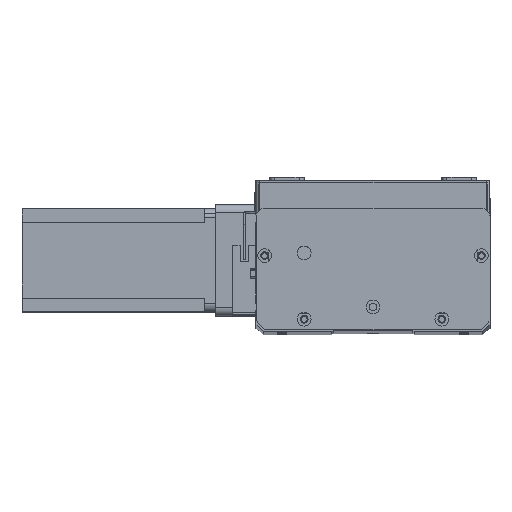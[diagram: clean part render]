
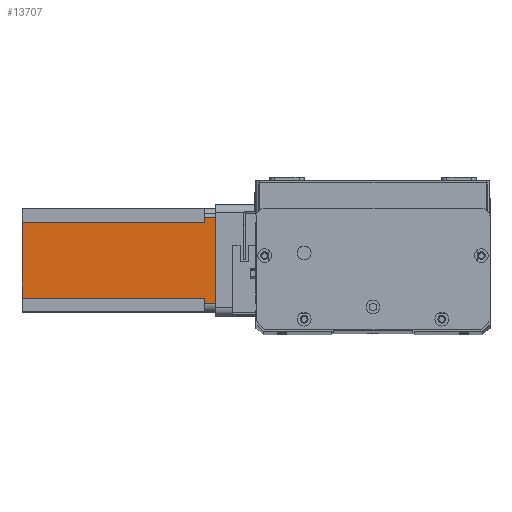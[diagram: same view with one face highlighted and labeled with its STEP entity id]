
A CAD part, top view. The second image highlights one B-rep face of the part: STEP entity #13707.
In plain terms, the highlighted planar face has unit normal (0, 0, 1) as drawn and (0, -1, 0) by its records, which use the part's own axes.
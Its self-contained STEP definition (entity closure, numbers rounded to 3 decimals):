
#125 = CARTESIAN_POINT ( 'NONE',  ( 0., 0., -112.5 ) ) ;
#185 = VECTOR ( 'NONE', #9398, 1000. ) ;
#202 = VECTOR ( 'NONE', #1739, 1000. ) ;
#456 = CARTESIAN_POINT ( 'NONE',  ( 8., 0., -6.5 ) ) ;
#1510 = DIRECTION ( 'NONE',  ( 1., 0., 0. ) ) ;
#1739 = DIRECTION ( 'NONE',  ( 0., 0., 1. ) ) ;
#1847 = EDGE_CURVE ( 'NONE', #11429, #1970, #19322, .T. ) ;
#1873 = VECTOR ( 'NONE', #6505, 1000. ) ;
#1970 = VERTEX_POINT ( 'NONE', #11541 ) ;
#2457 = LINE ( 'NONE', #456, #9061 ) ;
#3213 = ORIENTED_EDGE ( 'NONE', *, *, #16400, .T. ) ;
#3309 = VECTOR ( 'NONE', #11193, 1000. ) ;
#4149 = CARTESIAN_POINT ( 'NONE',  ( 52., 0., -112.5 ) ) ;
#5074 = VERTEX_POINT ( 'NONE', #10171 ) ;
#5399 = VERTEX_POINT ( 'NONE', #21449 ) ;
#5459 = AXIS2_PLACEMENT_3D ( 'NONE', #7580, #15218, #24091 ) ;
#6078 = ORIENTED_EDGE ( 'NONE', *, *, #11609, .F. ) ;
#6505 = DIRECTION ( 'NONE',  ( 0., 0., 1. ) ) ;
#6896 = ORIENTED_EDGE ( 'NONE', *, *, #1847, .T. ) ;
#7543 = ORIENTED_EDGE ( 'NONE', *, *, #10706, .T. ) ;
#7580 = CARTESIAN_POINT ( 'NONE',  ( 0., 0., -112.5 ) ) ;
#7745 = VECTOR ( 'NONE', #1510, 1000. ) ;
#8217 = EDGE_CURVE ( 'NONE', #11429, #5399, #22129, .T. ) ;
#8367 = EDGE_CURVE ( 'NONE', #5074, #1970, #18353, .T. ) ;
#8608 = CARTESIAN_POINT ( 'NONE',  ( 52., 0., -6.5 ) ) ;
#9061 = VECTOR ( 'NONE', #14469, 1000. ) ;
#9398 = DIRECTION ( 'NONE',  ( 0., 0., -1. ) ) ;
#9767 = ORIENTED_EDGE ( 'NONE', *, *, #12570, .F. ) ;
#9789 = CARTESIAN_POINT ( 'NONE',  ( 8., 0., -112.5 ) ) ;
#10111 = VECTOR ( 'NONE', #24607, 1000. ) ;
#10171 = CARTESIAN_POINT ( 'NONE',  ( 52., 0., -6.5 ) ) ;
#10189 = ORIENTED_EDGE ( 'NONE', *, *, #8217, .F. ) ;
#10325 = VERTEX_POINT ( 'NONE', #25337 ) ;
#10706 = EDGE_CURVE ( 'NONE', #18591, #12164, #12555, .T. ) ;
#10864 = LINE ( 'NONE', #11423, #185 ) ;
#11193 = DIRECTION ( 'NONE',  ( 1., 0., 0. ) ) ;
#11423 = CARTESIAN_POINT ( 'NONE',  ( 5., 0., -112.5 ) ) ;
#11429 = VERTEX_POINT ( 'NONE', #9789 ) ;
#11541 = CARTESIAN_POINT ( 'NONE',  ( 52., 0., -112.5 ) ) ;
#11609 = EDGE_CURVE ( 'NONE', #5399, #10325, #2457, .T. ) ;
#12164 = VERTEX_POINT ( 'NONE', #14127 ) ;
#12276 = DIRECTION ( 'NONE',  ( 0., 0., -1. ) ) ;
#12435 = VECTOR ( 'NONE', #12276, 1000. ) ;
#12555 = LINE ( 'NONE', #20535, #1873 ) ;
#12570 = EDGE_CURVE ( 'NONE', #25568, #12164, #13106, .T. ) ;
#13106 = LINE ( 'NONE', #25452, #7745 ) ;
#13707 = ADVANCED_FACE ( 'NONE', ( #13983 ), #25571, .T. ) ;
#13983 = FACE_OUTER_BOUND ( 'NONE', #23485, .T. ) ;
#14127 = CARTESIAN_POINT ( 'NONE',  ( 55., 0., 0. ) ) ;
#14258 = CARTESIAN_POINT ( 'NONE',  ( 55., 0., -6.5 ) ) ;
#14469 = DIRECTION ( 'NONE',  ( -1., 0., 0. ) ) ;
#15218 = DIRECTION ( 'NONE',  ( 0., -1., 0. ) ) ;
#16400 = EDGE_CURVE ( 'NONE', #5074, #18591, #20726, .T. ) ;
#18353 = LINE ( 'NONE', #4149, #12435 ) ;
#18591 = VERTEX_POINT ( 'NONE', #14258 ) ;
#19322 = LINE ( 'NONE', #125, #3309 ) ;
#20082 = EDGE_CURVE ( 'NONE', #25568, #10325, #10864, .T. ) ;
#20535 = CARTESIAN_POINT ( 'NONE',  ( 55., 0., -112.5 ) ) ;
#20543 = ORIENTED_EDGE ( 'NONE', *, *, #8367, .F. ) ;
#20555 = ORIENTED_EDGE ( 'NONE', *, *, #20082, .T. ) ;
#20726 = LINE ( 'NONE', #8608, #10111 ) ;
#21449 = CARTESIAN_POINT ( 'NONE',  ( 8., 0., -6.5 ) ) ;
#22129 = LINE ( 'NONE', #25681, #202 ) ;
#22696 = CARTESIAN_POINT ( 'NONE',  ( 5., 0., 0. ) ) ;
#23485 = EDGE_LOOP ( 'NONE', ( #3213, #7543, #9767, #20555, #6078, #10189, #6896, #20543 ) ) ;
#24091 = DIRECTION ( 'NONE',  ( 0., 0., -1. ) ) ;
#24607 = DIRECTION ( 'NONE',  ( 1., 0., 0. ) ) ;
#25337 = CARTESIAN_POINT ( 'NONE',  ( 5., 0., -6.5 ) ) ;
#25452 = CARTESIAN_POINT ( 'NONE',  ( 0., 0., 0. ) ) ;
#25568 = VERTEX_POINT ( 'NONE', #22696 ) ;
#25571 = PLANE ( 'NONE',  #5459 ) ;
#25681 = CARTESIAN_POINT ( 'NONE',  ( 8., 0., -112.5 ) ) ;
